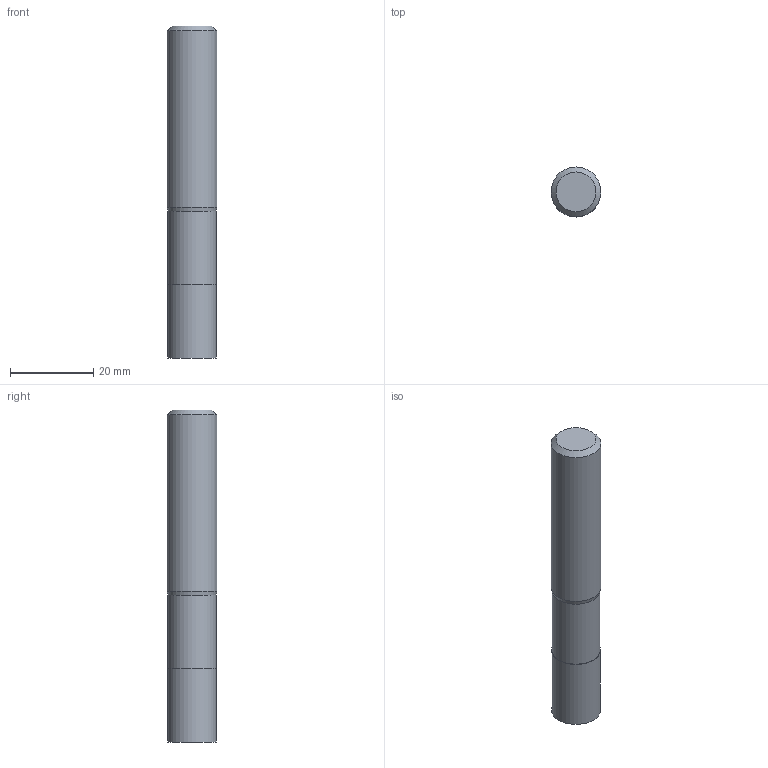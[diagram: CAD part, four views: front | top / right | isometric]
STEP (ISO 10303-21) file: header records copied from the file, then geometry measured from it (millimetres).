
FILE_DESCRIPTION((''),'2;1');
FILE_NAME('C:\Users\nsx150\AppData\Local\Temp\Mastercam 2021\EUJSUNXURU\TEMP.step','2021-04-22T10:30:25',(''),(''),'STEP Write','Mastercam 2021 ... CNC Software, Inc.','');
FILE_SCHEMA(('AUTOMOTIVE_DESIGN'));
Length unit declared in the file: millimetre
Products named in the file (1): None
Bounding box: 12 x 12 x 80 mm (x, y, z)
Volume: 8821.5 mm3; surface area: 3391.9 mm2
Topology: 2 solids, 2 shells, 9 faces, 12 edges, 7 vertices
Faces by surface type: plane 4, cylinder 3, cone 2
Full cylindrical faces by diameter (mm): 11.6 x1, 11.8 x1, 12 x1
Entity records: 211 total; most frequent: DIRECTION 36, CARTESIAN_POINT 25, AXIS2_PLACEMENT_3D 18, ORIENTED_EDGE 14, EDGE_LOOP 14, STYLED_ITEM 12, ADVANCED_FACE 9, FACE_BOUND 8
